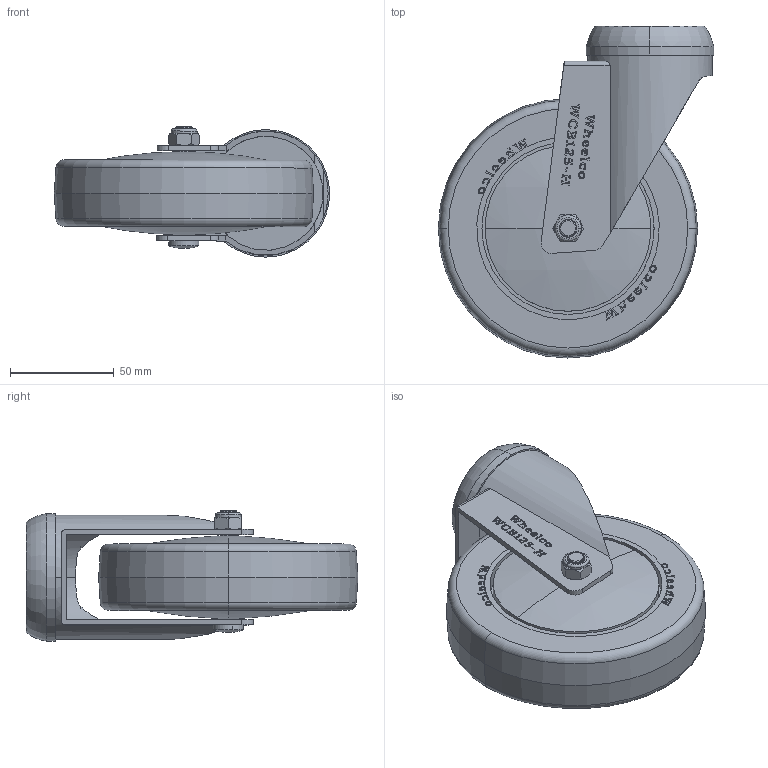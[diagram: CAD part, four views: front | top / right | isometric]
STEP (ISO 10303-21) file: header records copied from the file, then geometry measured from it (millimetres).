
FILE_DESCRIPTION (( 'STEP AP214' ), '1' );
FILE_NAME ('WCB125-H.step', '2024-01-12T00:39:27', ( '' ), ( '' ), 'SwSTEP 2.0', 'SolidWorks 2022', '' );
FILE_SCHEMA (( 'AUTOMOTIVE_DESIGN' ));
Length unit declared in the file: millimetre
Products named in the file (6): M8Nyloc; WC125-H; WCB125-H; WCB125; WC-M8x55; 61.5 TOP CAP
Assembly tree (5 placements, depth 2):
  WCB125-H
    WC125-H
    WC-M8x55
    M8Nyloc
    61.5 TOP CAP
    WCB125
Bounding box: 132.75 x 160 x 62.82 mm (x, y, z)
Volume: 469696.5 mm3; surface area: 83731.2 mm2
Topology: 5 solids, 5 shells, 939 faces, 2644 edges, 1753 vertices
Faces by surface type: plane 535, bspline 296, cylinder 75, cone 18, torus 10, sphere 5
Entity records: 49120 total; most frequent: CARTESIAN_POINT 26664, ORIENTED_EDGE 5282, DIRECTION 3367, EDGE_CURVE 2641, LINE 1753, VECTOR 1753, VERTEX_POINT 1751, EDGE_LOOP 990
